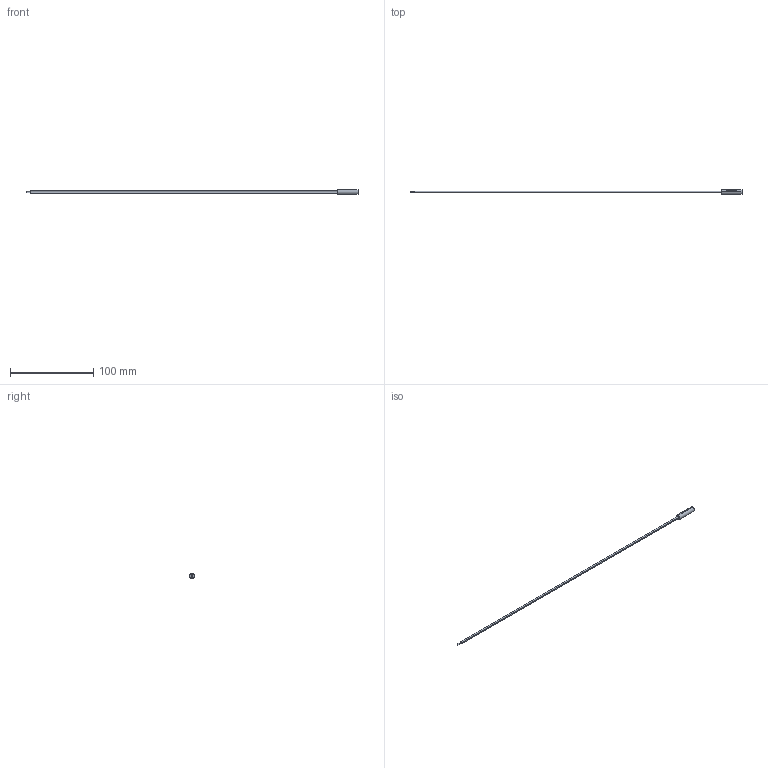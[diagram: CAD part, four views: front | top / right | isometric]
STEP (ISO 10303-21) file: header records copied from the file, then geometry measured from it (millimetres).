
FILE_DESCRIPTION (( 'STEP AP214' ), '1' );
FILE_NAME ('NTC 2381 641 46222 Thermistor Pipe_03 Vishay (RS).STEP', '2012-04-03T13:37:06', ( 'Vishay Intertechnology, Inc.' ), ( 'Vishay Intertechnology, Inc.' ), 'SwSTEP 2.0', 'SolidWorks 2012', '' );
FILE_SCHEMA (( 'AUTOMOTIVE_DESIGN' ));
Length unit declared in the file: millimetre
Products named in the file (1): NTC 2381 641 46222 Thermistor Pipe_03 Vishay (RS)
Bounding box: 400 x 6 x 6 mm (x, y, z)
Volume: 2017.6 mm3; surface area: 3829.6 mm2
Topology: 1 solids, 1 shells, 59 faces, 395 edges, 384 vertices
Faces by surface type: cylinder 52, plane 7
Entity records: 6628 total; most frequent: CARTESIAN_POINT 3393, ORIENTED_EDGE 790, EDGE_CURVE 395, VERTEX_POINT 384, DIRECTION 379, B_SPLINE_CURVE_WITH_KNOTS 215, AXIS2_PLACEMENT_3D 139, EDGE_LOOP 105
